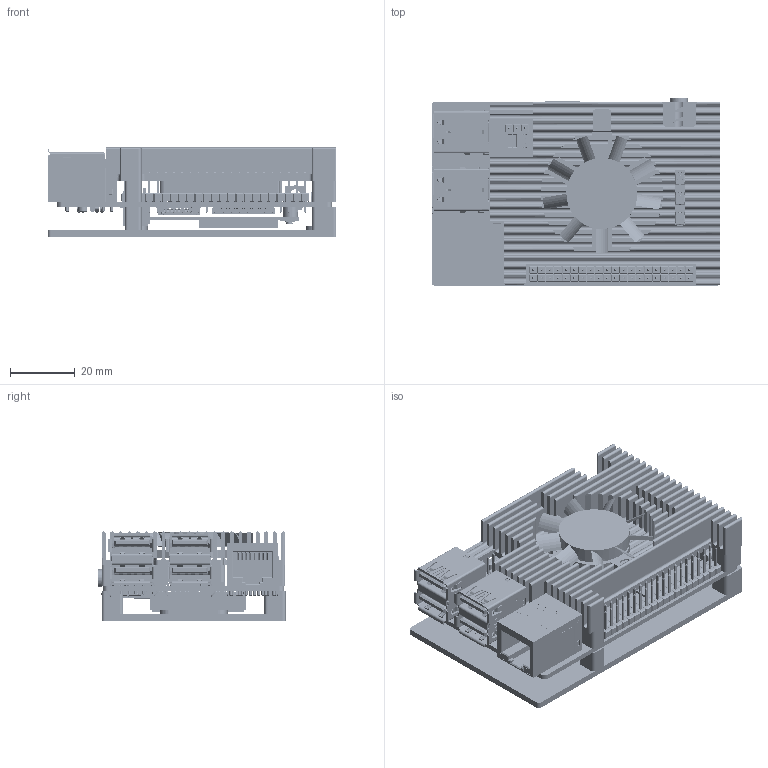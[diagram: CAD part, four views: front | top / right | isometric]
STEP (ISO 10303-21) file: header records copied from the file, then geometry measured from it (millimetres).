
FILE_DESCRIPTION (( 'STEP AP214' ), '1' );
FILE_NAME ('LubanCat 4-俋褲3D恅璃.STEP', '2024-09-25T03:47:33', ( '' ), ( '' ), 'SwSTEP 2.0', 'SolidWorks 2021', '' );
FILE_SCHEMA (( 'AUTOMOTIVE_DESIGN' ));
Length unit declared in the file: millimetre
Products named in the file (26): MCS-104; TS-1088-AR02016; LubanCat 4-PCB-20230612; USB2.0邧脯橙晚 錨璃; USB3.0+2.0橙晚釱赽 錨璃; wifi耀輸酗; SD縐; 1.25X2pin; x05a20l30t; SIM笢縐-20230612; LubanCat 4-菁裔-202306121; 3PIN; M2.5X4.5X3X1.5X.15 爾諉肣翐; 聆泂LED; ZH 2P 脣璃1.5MM; 20X2; AXE630124; TYPE-C 譫釱 16P 泂え 錨璃; 等腰风扇4007 挤铝版本20230720; HR911105A; PCIE-52P56H; IRM-v838M3 綻俋泂え; 嫉儂釱赽; 4007瑞圮菁釱; LubanCat 4-俋褲3D恅璃; MINI_HDMI
Assembly tree (32 placements, depth 2):
  LubanCat 4-俋褲3D恅璃
    LubanCat 4-PCB-20230612
    USB2.0邧脯橙晚 錨璃
    USB3.0+2.0橙晚釱赽 錨璃
    HR911105A
    TYPE-C 譫釱 16P 泂え 錨璃  x2
    嫉儂釱赽
    x05a20l30t  x2
    AXE630124  x3
    IRM-v838M3 綻俋泂え
    1.25X2pin
    3PIN
    ZH 2P 脣璃1.5MM
    聆泂LED  x2
    20X2
    PCIE-52P56H
    M2.5X4.5X3X1.5X.15 爾諉肣翐
    wifi耀輸酗
    MCS-104
    MINI_HDMI
    SD縐
    SIM笢縐-20230612
    TS-1088-AR02016  x3
    LubanCat 4-菁裔-202306121
    等腰风扇4007 挤铝版本20230720
    4007瑞圮菁釱
Bounding box: 89.47 x 58.03 x 27.6 mm (x, y, z)
Volume: 52376.6 mm3; surface area: 68824.3 mm2
Topology: 115 solids, 206 shells, 13894 faces, 38259 edges, 24747 vertices
Faces by surface type: plane 10084, cylinder 3015, bspline 669, cone 101, sphere 19, torus 6
Entity records: 449040 total; most frequent: CARTESIAN_POINT 87547, ORIENTED_EDGE 58622, DIRECTION 50606, EDGE_CURVE 29421, VECTOR 22666, LINE 22666, VERTEX_POINT 19137, AXIS2_PLACEMENT_3D 13970
